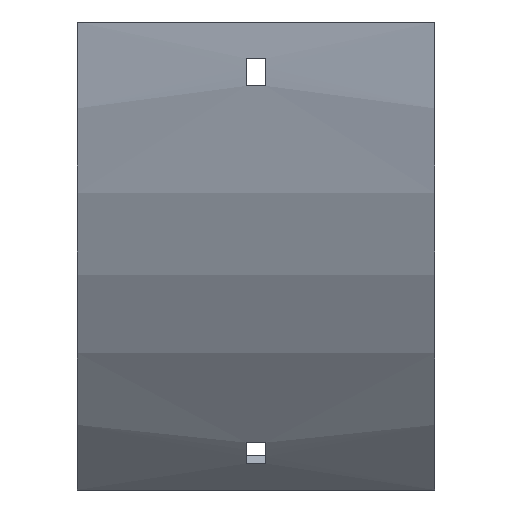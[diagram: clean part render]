
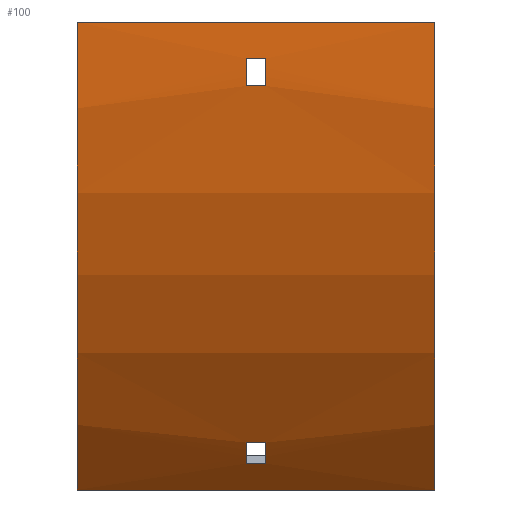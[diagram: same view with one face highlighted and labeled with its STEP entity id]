
A CAD part, front view. The second image highlights one B-rep face of the part: STEP entity #100.
In plain terms, the highlighted cylindrical face has radius 217.5 mm (diameter 435 mm), a partial arc.
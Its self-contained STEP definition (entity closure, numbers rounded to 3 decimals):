
#30 = DIRECTION ( 'NONE',  ( 0., 0., -1. ) ) ;
#32 = FACE_BOUND ( 'NONE', #1061, .T. ) ;
#85 = CARTESIAN_POINT ( 'NONE',  ( -3.25, -62.047, -145.076 ) ) ;
#89 = VECTOR ( 'NONE', #1415, 1000. ) ;
#90 = EDGE_CURVE ( 'NONE', #606, #1413, #1348, .T. ) ;
#100 = ADVANCED_FACE ( 'NONE', ( #1487, #32, #1117 ), #1635, .T. ) ;
#101 = EDGE_LOOP ( 'NONE', ( #1221, #975, #1600, #650 ) ) ;
#123 = CARTESIAN_POINT ( 'NONE',  ( 3.25, 100., 0. ) ) ;
#131 = AXIS2_PLACEMENT_3D ( 'NONE', #123, #508, #1165 ) ;
#145 = DIRECTION ( 'NONE',  ( 1., 0., 0. ) ) ;
#156 = VERTEX_POINT ( 'NONE', #891 ) ;
#174 = CARTESIAN_POINT ( 'NONE',  ( -3.25, -116.484, -21. ) ) ;
#181 = CARTESIAN_POINT ( 'NONE',  ( 58.75, 100., 0. ) ) ;
#205 = VERTEX_POINT ( 'NONE', #1126 ) ;
#220 = LINE ( 'NONE', #357, #534 ) ;
#235 = AXIS2_PLACEMENT_3D ( 'NONE', #1435, #1456, #1568 ) ;
#256 = ORIENTED_EDGE ( 'NONE', *, *, #397, .F. ) ;
#273 = CIRCLE ( 'NONE', #131, 217.5 ) ;
#279 = LINE ( 'NONE', #1311, #833 ) ;
#284 = CARTESIAN_POINT ( 'NONE',  ( 58.75, -117.5, 0. ) ) ;
#295 = DIRECTION ( 'NONE',  ( -1., 0., 0. ) ) ;
#301 = AXIS2_PLACEMENT_3D ( 'NONE', #181, #1229, #30 ) ;
#357 = CARTESIAN_POINT ( 'NONE',  ( 58.75, -117.5, 0. ) ) ;
#362 = CARTESIAN_POINT ( 'NONE',  ( 58.75, -53.796, -153.796 ) ) ;
#379 = VERTEX_POINT ( 'NONE', #284 ) ;
#391 = CARTESIAN_POINT ( 'NONE',  ( -3.25, 100., 0. ) ) ;
#397 = EDGE_CURVE ( 'NONE', #379, #602, #607, .T. ) ;
#423 = LINE ( 'NONE', #946, #467 ) ;
#424 = DIRECTION ( 'NONE',  ( 1., 0., 0. ) ) ;
#457 = AXIS2_PLACEMENT_3D ( 'NONE', #1274, #1515, #1149 ) ;
#463 = ORIENTED_EDGE ( 'NONE', *, *, #1346, .F. ) ;
#467 = VECTOR ( 'NONE', #295, 1000. ) ;
#488 = EDGE_CURVE ( 'NONE', #620, #1630, #423, .T. ) ;
#508 = DIRECTION ( 'NONE',  ( 1., 0., 0. ) ) ;
#515 = CARTESIAN_POINT ( 'NONE',  ( -3.25, 100., 0. ) ) ;
#521 = DIRECTION ( 'NONE',  ( 0., 0., -1. ) ) ;
#534 = VECTOR ( 'NONE', #642, 1000. ) ;
#572 = EDGE_CURVE ( 'NONE', #156, #620, #273, .T. ) ;
#602 = VERTEX_POINT ( 'NONE', #1650 ) ;
#606 = VERTEX_POINT ( 'NONE', #85 ) ;
#607 = CIRCLE ( 'NONE', #301, 217.5 ) ;
#620 = VERTEX_POINT ( 'NONE', #731 ) ;
#627 = LINE ( 'NONE', #886, #983 ) ;
#629 = EDGE_CURVE ( 'NONE', #1413, #205, #1419, .T. ) ;
#641 = CARTESIAN_POINT ( 'NONE',  ( 3.25, -62.047, -145.076 ) ) ;
#642 = DIRECTION ( 'NONE',  ( -1., 0., 0. ) ) ;
#646 = ORIENTED_EDGE ( 'NONE', *, *, #1026, .T. ) ;
#650 = ORIENTED_EDGE ( 'NONE', *, *, #90, .F. ) ;
#671 = ORIENTED_EDGE ( 'NONE', *, *, #1673, .T. ) ;
#731 = CARTESIAN_POINT ( 'NONE',  ( 3.25, -116.484, -21. ) ) ;
#744 = CARTESIAN_POINT ( 'NONE',  ( -3.25, -67.926, -138.228 ) ) ;
#745 = DIRECTION ( 'NONE',  ( -1., 0., 0. ) ) ;
#763 = DIRECTION ( 'NONE',  ( -1., 0., 0. ) ) ;
#796 = DIRECTION ( 'NONE',  ( 1., 0., 0. ) ) ;
#829 = DIRECTION ( 'NONE',  ( 0., 0., -1. ) ) ;
#833 = VECTOR ( 'NONE', #796, 1000. ) ;
#869 = ORIENTED_EDGE ( 'NONE', *, *, #488, .T. ) ;
#886 = CARTESIAN_POINT ( 'NONE',  ( 58.75, -67.926, -138.228 ) ) ;
#891 = CARTESIAN_POINT ( 'NONE',  ( 3.25, -117.169, -12. ) ) ;
#893 = DIRECTION ( 'NONE',  ( 0., 0., 1. ) ) ;
#912 = VERTEX_POINT ( 'NONE', #1379 ) ;
#946 = CARTESIAN_POINT ( 'NONE',  ( 58.75, -116.484, -21. ) ) ;
#947 = CARTESIAN_POINT ( 'NONE',  ( -58.75, 100., 0. ) ) ;
#975 = ORIENTED_EDGE ( 'NONE', *, *, #991, .F. ) ;
#983 = VECTOR ( 'NONE', #763, 1000. ) ;
#991 = EDGE_CURVE ( 'NONE', #205, #1352, #627, .T. ) ;
#996 = ORIENTED_EDGE ( 'NONE', *, *, #1136, .T. ) ;
#1006 = AXIS2_PLACEMENT_3D ( 'NONE', #515, #745, #893 ) ;
#1026 = EDGE_CURVE ( 'NONE', #379, #1429, #220, .T. ) ;
#1043 = EDGE_CURVE ( 'NONE', #1630, #912, #1386, .T. ) ;
#1061 = EDGE_LOOP ( 'NONE', ( #869, #1444, #996, #1377 ) ) ;
#1117 = FACE_BOUND ( 'NONE', #101, .T. ) ;
#1126 = CARTESIAN_POINT ( 'NONE',  ( 3.25, -67.926, -138.228 ) ) ;
#1136 = EDGE_CURVE ( 'NONE', #912, #156, #279, .T. ) ;
#1149 = DIRECTION ( 'NONE',  ( 0., 0., 1. ) ) ;
#1165 = DIRECTION ( 'NONE',  ( 0., 0., -1. ) ) ;
#1203 = AXIS2_PLACEMENT_3D ( 'NONE', #947, #424, #829 ) ;
#1208 = CARTESIAN_POINT ( 'NONE',  ( 58.75, -62.047, -145.076 ) ) ;
#1221 = ORIENTED_EDGE ( 'NONE', *, *, #1432, .F. ) ;
#1223 = CARTESIAN_POINT ( 'NONE',  ( -58.75, -53.796, -153.796 ) ) ;
#1229 = DIRECTION ( 'NONE',  ( 1., 0., 0. ) ) ;
#1259 = CARTESIAN_POINT ( 'NONE',  ( -58.75, -117.5, 0. ) ) ;
#1261 = CIRCLE ( 'NONE', #1203, 217.5 ) ;
#1274 = CARTESIAN_POINT ( 'NONE',  ( 58.75, 100., 0. ) ) ;
#1311 = CARTESIAN_POINT ( 'NONE',  ( 58.75, -117.169, -12. ) ) ;
#1346 = EDGE_CURVE ( 'NONE', #602, #1614, #1393, .T. ) ;
#1348 = LINE ( 'NONE', #1208, #1548 ) ;
#1352 = VERTEX_POINT ( 'NONE', #744 ) ;
#1377 = ORIENTED_EDGE ( 'NONE', *, *, #572, .T. ) ;
#1379 = CARTESIAN_POINT ( 'NONE',  ( -3.25, -117.169, -12. ) ) ;
#1386 = CIRCLE ( 'NONE', #1006, 217.5 ) ;
#1393 = LINE ( 'NONE', #362, #89 ) ;
#1413 = VERTEX_POINT ( 'NONE', #641 ) ;
#1415 = DIRECTION ( 'NONE',  ( -1., 0., 0. ) ) ;
#1419 = CIRCLE ( 'NONE', #235, 217.5 ) ;
#1429 = VERTEX_POINT ( 'NONE', #1259 ) ;
#1432 = EDGE_CURVE ( 'NONE', #1352, #606, #1476, .T. ) ;
#1435 = CARTESIAN_POINT ( 'NONE',  ( 3.25, 100., 0. ) ) ;
#1444 = ORIENTED_EDGE ( 'NONE', *, *, #1043, .T. ) ;
#1456 = DIRECTION ( 'NONE',  ( -1., 0., 0. ) ) ;
#1476 = CIRCLE ( 'NONE', #1561, 217.5 ) ;
#1487 = FACE_OUTER_BOUND ( 'NONE', #1575, .T. ) ;
#1497 = DIRECTION ( 'NONE',  ( 1., 0., 0. ) ) ;
#1515 = DIRECTION ( 'NONE',  ( -1., 0., 0. ) ) ;
#1548 = VECTOR ( 'NONE', #1497, 1000. ) ;
#1561 = AXIS2_PLACEMENT_3D ( 'NONE', #391, #145, #521 ) ;
#1568 = DIRECTION ( 'NONE',  ( 0., 0., 1. ) ) ;
#1575 = EDGE_LOOP ( 'NONE', ( #671, #463, #256, #646 ) ) ;
#1600 = ORIENTED_EDGE ( 'NONE', *, *, #629, .F. ) ;
#1614 = VERTEX_POINT ( 'NONE', #1223 ) ;
#1630 = VERTEX_POINT ( 'NONE', #174 ) ;
#1635 = CYLINDRICAL_SURFACE ( 'NONE', #457, 217.5 ) ;
#1650 = CARTESIAN_POINT ( 'NONE',  ( 58.75, -53.796, -153.796 ) ) ;
#1673 = EDGE_CURVE ( 'NONE', #1429, #1614, #1261, .T. ) ;
